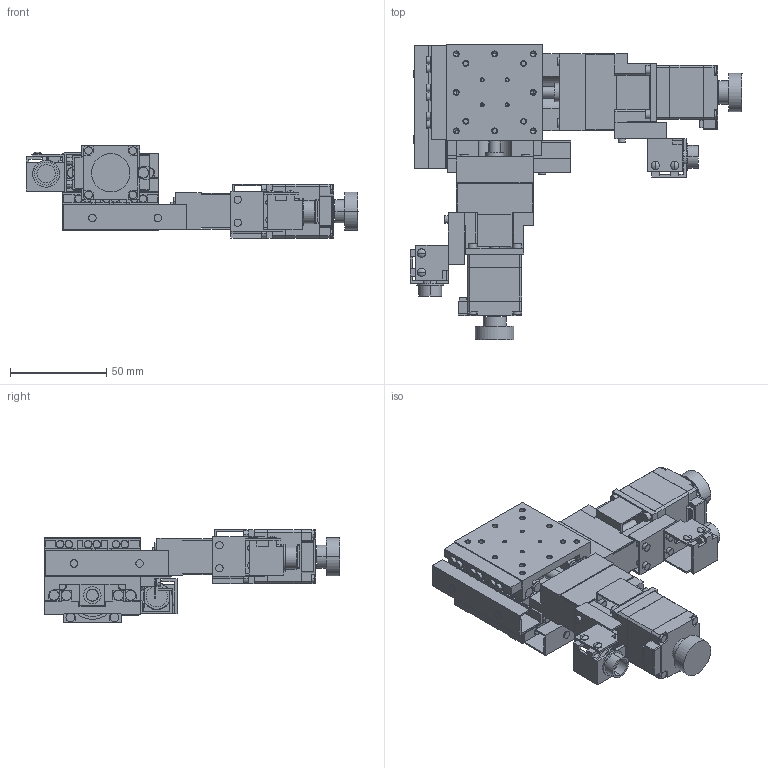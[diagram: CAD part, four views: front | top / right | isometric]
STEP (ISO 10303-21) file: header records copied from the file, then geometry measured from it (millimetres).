
FILE_DESCRIPTION(('STEP AP203'),'1');
FILE_NAME('C:/3D-Trans/3D_PMG513M-R□-E4+240122.step','2024-03-14T05:37:57',(' '),(' '),'Spatial InterOp 3D',' ',' ');
FILE_SCHEMA(('CONFIG_CONTROL_DESIGN'));
Length unit declared in the file: millimetre
Products named in the file (12): 1; 2; 3; 4; 5; 6; 7; 8; 9; 10; 11; 12
Bounding box: 172.5 x 153.5 x 48 mm (x, y, z)
Volume: 197489.3 mm3; surface area: 102970.4 mm2
Topology: 12 solids, 12 shells, 1560 faces, 4026 edges, 2556 vertices
Faces by surface type: plane 922, cylinder 478, cone 152, sphere 8
Entity records: 48058 total; most frequent: CARTESIAN_POINT 8546, DIRECTION 8326, ORIENTED_EDGE 7956, EDGE_CURVE 3978, AXIS2_PLACEMENT_3D 2808, LINE 2710, VECTOR 2710, VERTEX_POINT 2556
